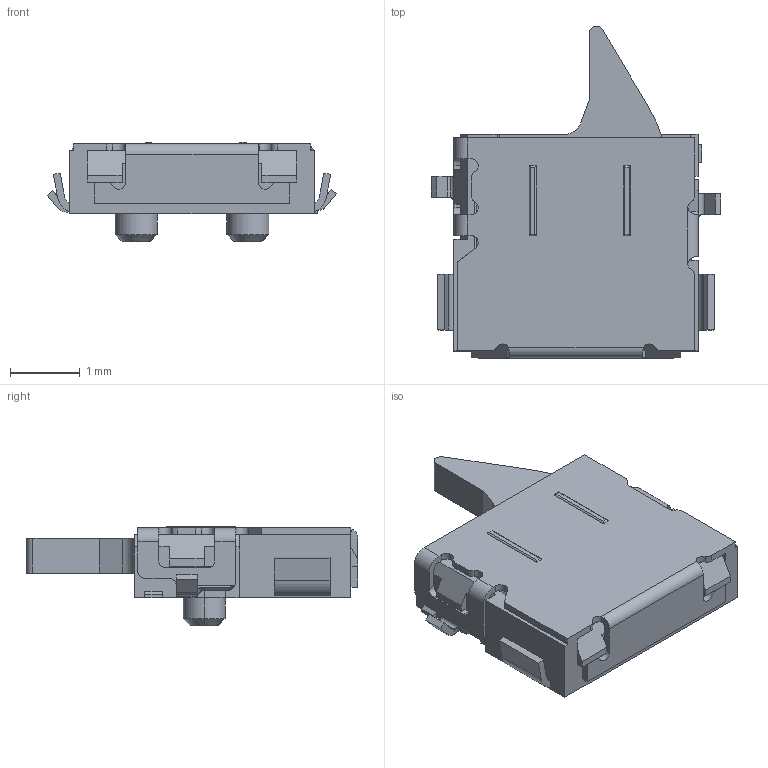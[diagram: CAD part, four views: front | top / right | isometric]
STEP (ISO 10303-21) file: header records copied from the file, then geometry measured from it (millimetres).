
FILE_DESCRIPTION (( 'STEP AP203' ), '1' );
FILE_NAME ('DTS 209 BPRT.STEP', '2017-03-31T07:08:54', ( 'mis' ), ( '' ), 'SwSTEP 2.0', 'SolidWorks 2008', '' );
FILE_SCHEMA (( 'CONFIG_CONTROL_DESIGN' ));
Length unit declared in the file: millimetre
Products named in the file (2): DTS 209 BPRT_預設; DTS 209 BPRT
Assembly tree (1 placements, depth 2):
  DTS 209 BPRT
    DTS 209 BPRT_預設
Bounding box: 4.14 x 4.75 x 1.42 mm (x, y, z)
Volume: 8.9 mm3; surface area: 76.5 mm2
Topology: 1 solids, 1 shells, 277 faces, 787 edges, 506 vertices
Faces by surface type: plane 172, cylinder 93, bspline 8, cone 4
Entity records: 9548 total; most frequent: CARTESIAN_POINT 2072, ORIENTED_EDGE 1574, DIRECTION 1475, EDGE_CURVE 787, VECTOR 579, LINE 579, VERTEX_POINT 506, AXIS2_PLACEMENT_3D 448
